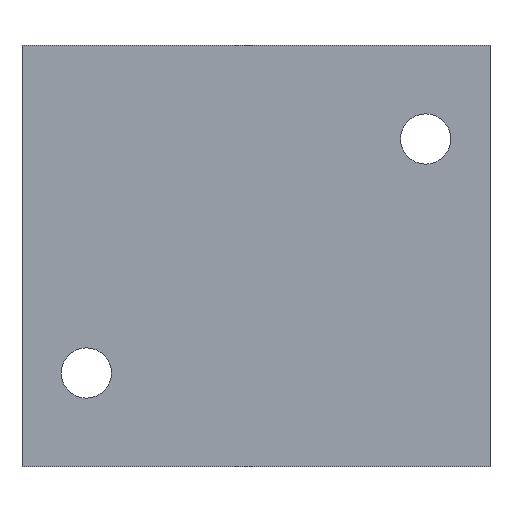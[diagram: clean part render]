
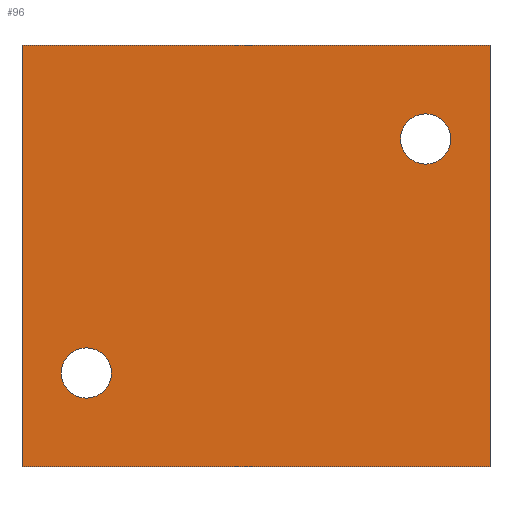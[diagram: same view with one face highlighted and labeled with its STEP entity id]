
A CAD part, front view. The second image highlights one B-rep face of the part: STEP entity #96.
In plain terms, the highlighted planar face has unit normal (0, -1, 0).
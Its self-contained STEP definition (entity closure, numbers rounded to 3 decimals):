
#96=ADVANCED_FACE('',(#225,#226,#227),#228,.F.);
#225=FACE_BOUND('',#477,.T.);
#226=FACE_BOUND('',#478,.T.);
#227=FACE_OUTER_BOUND('',#479,.T.);
#228=PLANE('',#480);
#477=EDGE_LOOP('',(#827));
#478=EDGE_LOOP('',(#828));
#479=EDGE_LOOP('',(#829,#830,#831,#832));
#480=AXIS2_PLACEMENT_3D('',#833,#834,#835);
#827=ORIENTED_EDGE('',*,*,#1289,.T.);
#828=ORIENTED_EDGE('',*,*,#1291,.T.);
#829=ORIENTED_EDGE('',*,*,#1307,.T.);
#830=ORIENTED_EDGE('',*,*,#1312,.F.);
#831=ORIENTED_EDGE('',*,*,#1299,.F.);
#832=ORIENTED_EDGE('',*,*,#1317,.T.);
#833=CARTESIAN_POINT('',(20.0,-16.0,-18.0));
#834=DIRECTION('',(-0.0,1.0,0.0));
#835=DIRECTION('',(1.0,0.0,0.0));
#1289=EDGE_CURVE('',#1477,#1477,#1478,.T.);
#1291=EDGE_CURVE('',#1481,#1481,#1482,.T.);
#1299=EDGE_CURVE('',#1494,#1496,#1497,.T.);
#1307=EDGE_CURVE('',#1511,#1509,#1512,.T.);
#1312=EDGE_CURVE('',#1496,#1509,#1518,.T.);
#1317=EDGE_CURVE('',#1494,#1511,#1524,.T.);
#1477=VERTEX_POINT('',#1795);
#1478=CIRCLE('',#1796,2.15);
#1481=VERTEX_POINT('',#1799);
#1482=CIRCLE('',#1800,2.15);
#1494=VERTEX_POINT('',#1817);
#1496=VERTEX_POINT('',#1820);
#1497=LINE('',#1821,#1822);
#1509=VERTEX_POINT('',#1840);
#1511=VERTEX_POINT('',#1843);
#1512=LINE('',#1844,#1845);
#1518=LINE('',#1855,#1856);
#1524=LINE('',#1865,#1866);
#1795=CARTESIAN_POINT('',(14.5,-16.0,12.15));
#1796=AXIS2_PLACEMENT_3D('',#2110,#2111,#2112);
#1799=CARTESIAN_POINT('',(-14.5,-16.0,-12.15));
#1800=AXIS2_PLACEMENT_3D('',#2116,#2117,#2118);
#1817=CARTESIAN_POINT('',(20.0,-16.0,-18.0));
#1820=CARTESIAN_POINT('',(-20.0,-16.0,-18.0));
#1821=CARTESIAN_POINT('',(20.0,-16.0,-18.0));
#1822=VECTOR('',#2128,1.0);
#1840=CARTESIAN_POINT('',(-20.0,-16.0,18.0));
#1843=CARTESIAN_POINT('',(20.0,-16.0,18.0));
#1844=CARTESIAN_POINT('',(20.0,-16.0,18.0));
#1845=VECTOR('',#2136,1.0);
#1855=CARTESIAN_POINT('',(-20.0,-16.0,-18.0));
#1856=VECTOR('',#2141,1.0);
#1865=CARTESIAN_POINT('',(20.0,-16.0,-18.0));
#1866=VECTOR('',#2148,1.0);
#2110=CARTESIAN_POINT('',(14.5,-16.0,10.0));
#2111=DIRECTION('',(0.0,1.0,0.0));
#2112=DIRECTION('',(0.0,0.0,1.0));
#2116=CARTESIAN_POINT('',(-14.5,-16.0,-10.0));
#2117=DIRECTION('',(0.0,1.0,0.0));
#2118=DIRECTION('',(0.0,0.0,-1.0));
#2128=DIRECTION('',(-1.0,0.0,0.0));
#2136=DIRECTION('',(-1.0,0.0,0.0));
#2141=DIRECTION('',(0.0,0.0,1.0));
#2148=DIRECTION('',(0.0,0.0,1.0));
